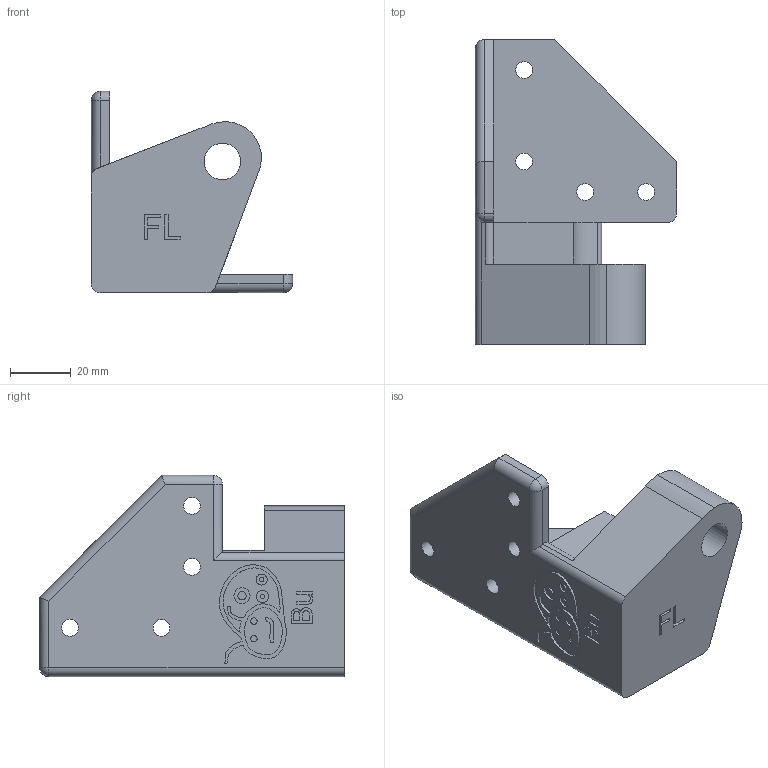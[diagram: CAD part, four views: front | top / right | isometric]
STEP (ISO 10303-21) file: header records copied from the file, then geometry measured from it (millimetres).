
FILE_DESCRIPTION(/* description */ (''),/* implementation_level */ '2;1');
FILE_NAME(/* name */ 'Foot FL v3.step',/* time_stamp */ '2023-03-23T06:33:53-06:00',/* author */ (''),/* organization */ (''),/* preprocessor_version */ 'ST-DEVELOPER v19.2',/* originating_system */ 'Autodesk Translation Framework v11.17.0.187',/* authorisation */ '');
FILE_SCHEMA (('AUTOMOTIVE_DESIGN { 1 0 10303 214 3 1 1 }'));
Length unit declared in the file: millimetre
Products named in the file (2): Foot FL; Foot FL_1
Assembly tree (1 placements, depth 2):
  Foot FL
    Foot FL_1
Bounding box: 66 x 100 x 66 mm (x, y, z)
Volume: 113804.6 mm3; surface area: 26376.1 mm2
Topology: 1 solids, 1 shells, 155 faces, 385 edges, 251 vertices
Faces by surface type: plane 71, bspline 45, cylinder 36, sphere 3
Full cylindrical faces by diameter (mm): 1.385 x1, 1.459 x1, 2.064 x2, 2.691 x1, 3.604 x1, 3.97 x1, 5.262 x1, 5.5 x8, 12 x1, 19 x1, 22.5 x1
Entity records: 8814 total; most frequent: CARTESIAN_POINT 5294, ORIENTED_EDGE 770, DIRECTION 591, EDGE_CURVE 385, VERTEX_POINT 251, LINE 225, VECTOR 225, EDGE_LOOP 192
